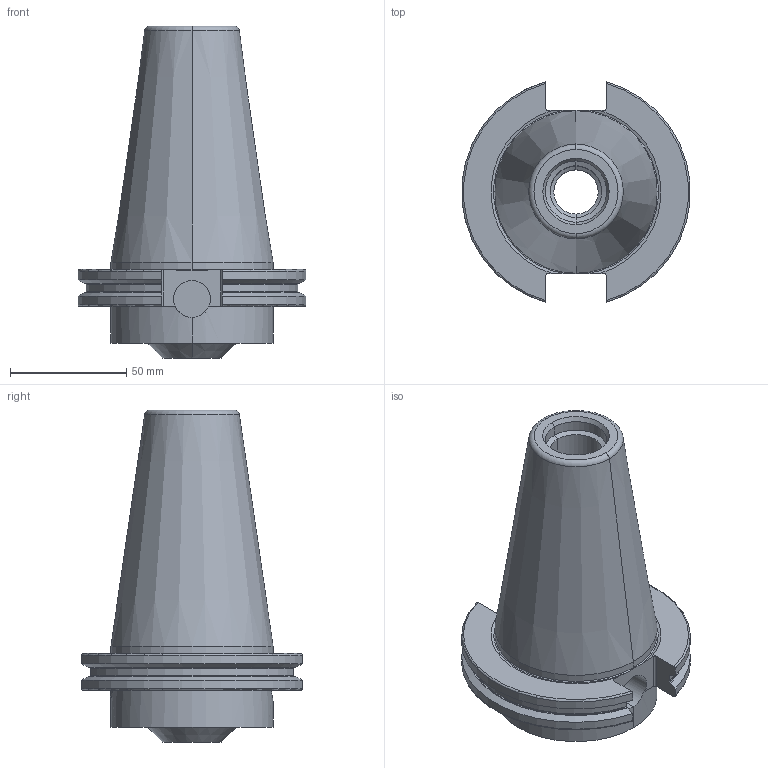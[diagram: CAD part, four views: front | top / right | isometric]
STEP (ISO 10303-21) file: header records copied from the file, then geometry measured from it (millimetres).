
FILE_DESCRIPTION (( 'STEP AP214' ), '1' );
FILE_NAME ('RC5EM07501620.STEP', '2019-02-08T14:26:40', ( '' ), ( '' ), 'SwSTEP 2.0', 'SolidWorks 2019', '' );
FILE_SCHEMA (( 'AUTOMOTIVE_DESIGN' ));
Length unit declared in the file: inch
Products named in the file (1): RC5EM07501620
Bounding box: 98.05 x 94.95 x 142.88 mm (x, y, z)
Volume: 372352.6 mm3; surface area: 50416.8 mm2
Topology: 1 solids, 1 shells, 101 faces, 264 edges, 165 vertices
Faces by surface type: plane 32, cylinder 31, cone 26, torus 12
Entity records: 3510 total; most frequent: CARTESIAN_POINT 941, ORIENTED_EDGE 524, DIRECTION 521, EDGE_CURVE 262, AXIS2_PLACEMENT_3D 207, VERTEX_POINT 165, VECTOR 107, LINE 107
